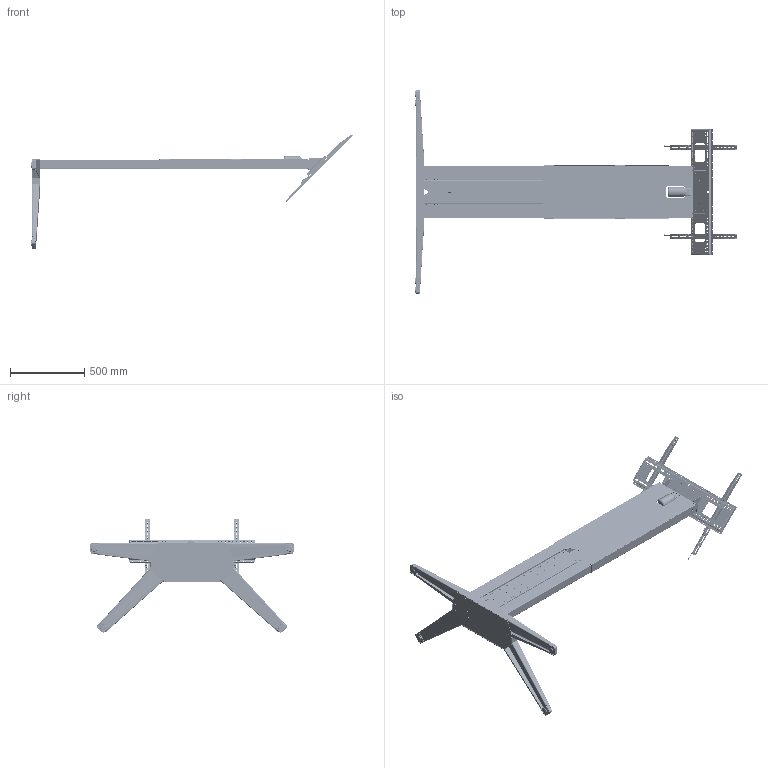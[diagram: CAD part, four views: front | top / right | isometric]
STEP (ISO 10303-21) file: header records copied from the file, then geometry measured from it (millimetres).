
FILE_DESCRIPTION((''),'2;1');
FILE_NAME('F50_FREESTANDING_MAX_ASM_ASM-__ASM','2022-02-11T15:51:16',('103247'),('捷昌驱动'),'CREO PARAMETRIC BY PTC INC, 2018100','CREO PARAMETRIC BY PTC INC, 2018100','');
FILE_SCHEMA(('CONFIG_CONTROL_DESIGN'));
Products named in the file (99): RR05-304_TOP_BRACKET_42_4_1; JS36DR-2467_1_1_9_1_1; JS36DR-1576_1_1_3_1_1; RR05-251_LEG_TOP1_ASM_1_ASM_1_A_ASM; JS36DR-0142_1_1_1_1_1; JS36DR-0141_1_1_1_1_1; JCSP-0505_1_1_1_1_1; RR05-251_LEG_TOP2_ASM_1_ASM_1_A_ASM; RR05-251_LEG_TOP3_ASM_1_ASM_1_A_ASM; JS36DR-2366_1_1_5_1_1; JS36DS-0069_1_1_5_1_1; JS36DS-0070_1_1_4_1_1; JC35TS-1850_1_1_2_1_1; JSSY-0115_1_1_1_1_1; JC35TS-1730_1_1_1_1_1; JCSP-0731_1_1_3_1_1; JCSP-0722_1_1_2_1_1; RR05-251_LEG_TOP4_ASM_27_ASM_1__ASM; RR05-251_LEG_TOP5_ASM_12_ASM_1__ASM; RR05-201_FRONT_TOP_COVER_25_3_1; PRT0001; RR05-203_REAR_TOP_COVER_16_7_1; NS1_3_6_ASM_1_ASM_1_1_2_3_ASM_2; NS1_3_6_ASM_1_1_ASM_1_ASM_1_A_1_ASM; 0000210278_ASM_1_ASM_1_ASM_1_1__ASM; 0000210276_ASM_1_ASM_1_ASM_1_1__ASM; JCB35NS1-A_ASM_1_ASM_1_1_ASM_1__ASM; JC35TS-1804_1_1_1_8_1_1; ______17135_1_1_1_1_1_1_1; ______17135_1_2_1_1_1_1_1; ______17135_1_3_1_1_1_1_1; ______17135_1_4_1_1_1_1_1; ______17135_1_5_1_1_1_1_1; ______17135_1_ASM_1_1_ASM_1_ASM_ASM; JC35TS-1807_1_ASM_1_1_ASM_1_ASM_ASM; JC35TS-1806_1_1_1_1_1_1; JC35TS-1805_1_1_1_1_1_1; JC35TF-0137_1_1_1_2_1_1; JCSP-0412_1_1_1_1_1_1; JCSP-0474_1_1_1_1_1_1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
Assembly tree (162 placements, depth 13):
  F50_FREESTANDING_MAX_ASM_ASM-__ASM
    F50_FREESTANDING_MAX_ASM_ASM_1_ASM
      F50_FREESTANDING_MAX_ASM_1_ASM__ASM
        RR05-150_MAIN_ASM_ASM_103_ASM_1_ASM
          RR05-250_TOP_ASM_ASM_61_ASM_5_A_ASM
            RR05-251_LEG_TOP5_ASM_12_ASM_1__ASM
              RR05-251_LEG_TOP4_ASM_27_ASM_1__ASM
                RR05-304_TOP_BRACKET_42_4_1
                RR05-251_LEG_TOP2_ASM_1_ASM_1_A_ASM
                  RR05-251_LEG_TOP1_ASM_1_ASM_1_A_ASM
                  JS36DR-0142_1_1_1_1_1  x2
                  JS36DR-0141_1_1_1_1_1  x2
                  JCSP-0505_1_1_1_1_1  x2
                RR05-251_LEG_TOP3_ASM_1_ASM_1_A_ASM
                  RR05-251_LEG_TOP1_ASM_1_ASM_1_A_ASM
                  JCSP-0505_1_1_1_1_1  x2
                  JS36DR-0141_1_1_1_1_1  x2
                  JS36DR-0142_1_1_1_1_1  x2
                JS36DR-2366_1_1_5_1_1
                JS36DS-0069_1_1_5_1_1
                JS36DS-0070_1_1_4_1_1
                JC35TS-1850_1_1_2_1_1
                JSSY-0115_1_1_1_1_1
                JC35TS-1730_1_1_1_1_1
                JCSP-0731_1_1_3_1_1
                JCSP-0722_1_1_2_1_1  x10
            RR05-201_FRONT_TOP_COVER_25_3_1
            PRT0001
            RR05-203_REAR_TOP_COVER_16_7_1
            RR05-300_MONITOR_CHASSIS_ASM_12_ASM
              2_ASM_1_1_ASM_1_ASM_1_ASM_1_ASM
                JC35TS-T215007_ASM_1_ASM_1_1_AS_ASM
                  JCB35NS1-A_ASM_1_ASM_1_1_ASM_1__ASM
                  JC35TS-1804_1_1_1_8_1_1
                  JC35TS-T191184_ASM_1_ASM_1_1_AS_ASM  x2
          RR05-252_LEG_BOT_ASM_65_ASM_3_A_ASM
            RR05-252_LEG_BOT4_ASM_2_ASM_1_A_ASM
              RR05-252_LEG_BOT3_ASM_1_ASM_1_A_ASM
                RR05-252_LEG_BOT2_ASM_1_ASM_1_A_ASM
                  RR05-252_LEG_BOT1_ASM_1_ASM_1_A_ASM
                  JC35PJ-0476_1_1_1_1_1  x2
                JC35TS-0166_1_1_2_1_1
              JS36DR-0304_1_1_1_1_1
              JCSP-0506_1_1_1_1_1  x4
            RR05-253_LEG_BOT4_ASM_1_ASM_1_A_ASM
              RR05-253_LEG_BOT3_ASM_1_ASM_1_A_ASM
                RR05-253_LEG_BOT2_ASM_1_ASM_1_A_ASM
                  RR05-253_LEG_BOT1_ASM_1_ASM_1_A_ASM
                  JC35PJ-0476_1_1_1_1_1  x2
                JC35TS-0166_1_1_2_1_1
              JCSP-0506_1_1_1_1_1  x4
              JS36DR-0304_1_1_1_1_1
            JC35TS-1668_1_1_5_1_1
            RR05-256-2_BRACKET_SCREWS_8_1_1  x6
            RR05-205_REAR_BOTTOM_COVER_26_7
            RR05-202_CONTROLLER_ASM_ASM_7_A_ASM
              RR05-202-1_CONTROLLER_3_1_1
              RR05-256-2_BRACKET_SCREWS_8_1_1  x2
      000_ASM_1_ASM
        RR05-110_BASE_ASM_ASM_ASM_4_ASM_ASM
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Bounding box: 2171.98 x 1380.36 x 773.9 mm (x, y, z)
Volume: 6474762.1 mm3; surface area: 7239754.7 mm2
Topology: 130 solids, 149 shells, 8017 faces, 22469 edges, 14799 vertices
Faces by surface type: plane 3548, cylinder 3046, bspline 553, cone 427, torus 284, extrusion 115, sphere 44
Entity records: 219197 total; most frequent: CARTESIAN_POINT 89967, ORIENTED_EDGE 27110, DIRECTION 25957, EDGE_CURVE 13585, VERTEX_POINT 8927, AXIS2_PLACEMENT_3D 8914, VECTOR 8129, LINE 8026
